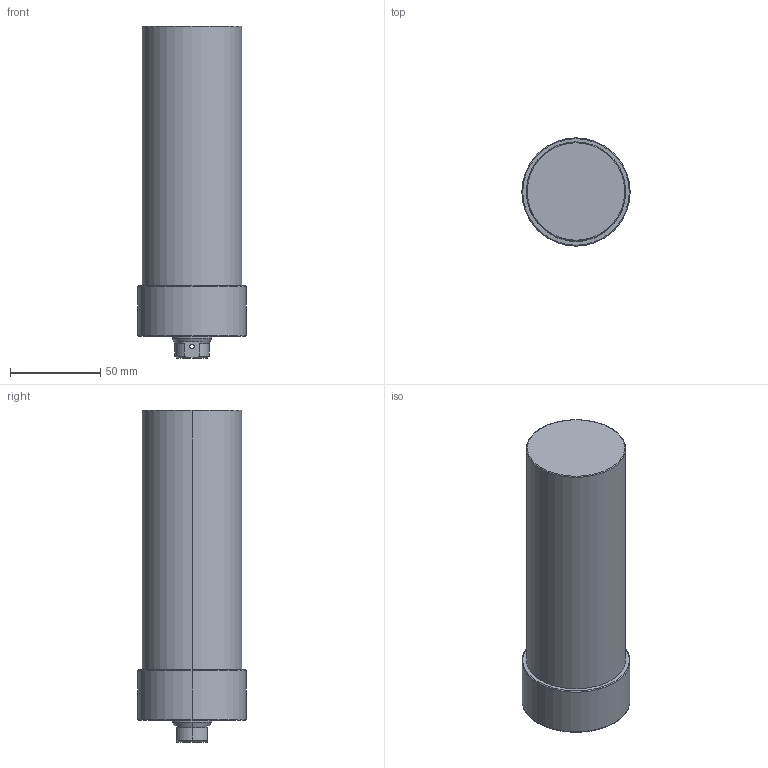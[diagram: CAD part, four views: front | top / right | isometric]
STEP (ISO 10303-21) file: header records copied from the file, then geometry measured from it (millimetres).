
FILE_DESCRIPTION (( 'STEP AP203' ), '1' );
FILE_NAME ('CLLU-055GB-115.STEP', '2020-01-06T07:22:28', ( '' ), ( '' ), 'SwSTEP 2.0', 'SolidWorks 2015', '' );
FILE_SCHEMA (( 'CONFIG_CONTROL_DESIGN' ));
Length unit declared in the file: millimetre
Products named in the file (1): CLLU-055GB-115
Bounding box: 60 x 60 x 184 mm (x, y, z)
Volume: 421578.3 mm3; surface area: 38252.5 mm2
Topology: 1 solids, 1 shells, 68 faces, 155 edges, 88 vertices
Faces by surface type: cylinder 27, cone 25, plane 10, torus 6
Entity records: 2021 total; most frequent: CARTESIAN_POINT 422, DIRECTION 350, ORIENTED_EDGE 290, AXIS2_PLACEMENT_3D 148, EDGE_CURVE 145, VERTEX_POINT 88, EDGE_LOOP 81, CIRCLE 79
